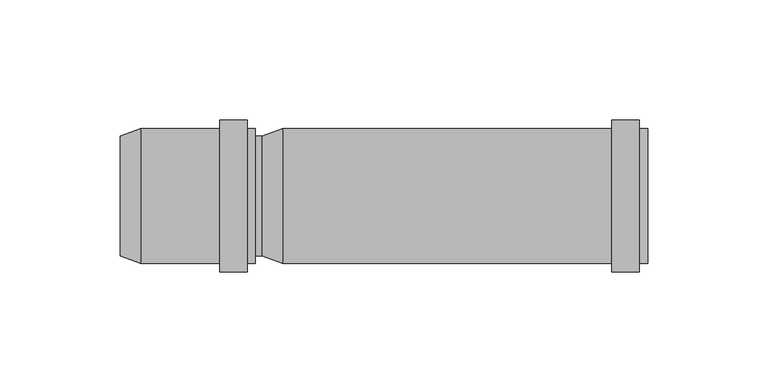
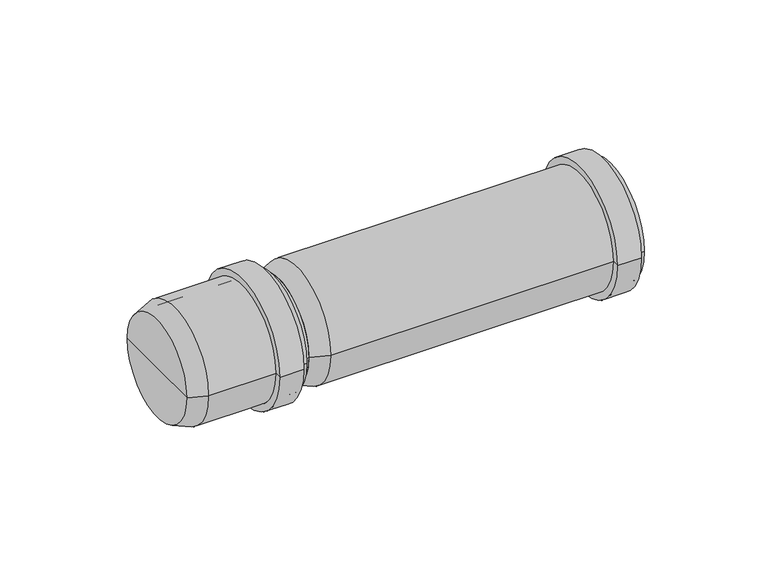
"""IFC4 building model written with IfcOpenShell, lengths in millimetres: pipe fitting geometry, pf_HTL : pf_HTL."""

from ifc_helpers import new_model, si_unit, point, frame, origin, origin_2d, place, context, project, spatial, polyline, circle_curve, trimmed, segment, composite_curve, outline, extrude, source, transform, mapped, element, save
from ifc_brep_helpers import plane_surface, cylinder_surface, revolved_surface, advanced_brep


def pipe_fitting_f14f61f6(model_context):
    return source(origin(), model_context, "Body", "SolidModel", [
        advanced_brep(
        [(0.0, -25.0, 0.0), (0.0, 25.0, 0.0), (8.5, 28.1, 0.0), (8.5, -28.1, 0.0), (0.0, 0.0, 0.0), (160.0, -28.1, 0.0), (160.0, 28.1, 0.0), (160.0, 25.0, 0.0), (160.0, -25.0, 0.0), (156.6, -28.1, 0.0), (156.6, 28.1, 0.0), (156.6, -31.5, 0.0), (156.6, 31.5, 0.0), (145.2, -31.5, 0.0), (145.2, 31.5, 0.0), (145.2, -28.1, 0.0), (145.2, 28.1, 0.0), (8.5, -25.0, 0.0), (8.5, 25.0, 0.0), (8.5, 0.0, 0.0)],
        [
            (0, 1, circle_curve(frame((0.0, 0.0, 0.0), z_axis=(1.0, 0.0, 0.0), x_axis=(0.0, 1.0, 0.0)), 25.0)),
            (1, 2),
            (2, 3, circle_curve(frame((8.5, 0.0, 0.0), z_axis=(-1.0, 0.0, 0.0), x_axis=(0.0, 1.0, 0.0)), 28.1)),
            (3, 0),
            (1, 0, circle_curve(frame((0.0, 0.0, 0.0), z_axis=(1.0, 0.0, 0.0), x_axis=(0.0, 1.0, 0.0)), 25.0)),
            (3, 2, circle_curve(frame((8.5, 0.0, 0.0), z_axis=(-1.0, 0.0, 0.0), x_axis=(0.0, 1.0, 0.0)), 28.1)),
            (4, 1),
            (0, 4),
            (5, 6, circle_curve(frame((160.0, 0.0, 0.0), z_axis=(1.0, 0.0, 0.0), x_axis=(0.0, 1.0, 0.0)), 28.1)),
            (6, 7),
            (7, 8, circle_curve(frame((160.0, 0.0, 0.0), z_axis=(-1.0, 0.0, 0.0), x_axis=(0.0, 1.0, 0.0)), 25.0)),
            (8, 5),
            (6, 5, circle_curve(frame((160.0, 0.0, 0.0), z_axis=(1.0, 0.0, 0.0), x_axis=(0.0, 1.0, 0.0)), 28.1)),
            (8, 7, circle_curve(frame((160.0, 0.0, 0.0), z_axis=(-1.0, 0.0, 0.0), x_axis=(0.0, 1.0, 0.0)), 25.0)),
            (9, 10, circle_curve(frame((156.6, 0.0, 0.0), z_axis=(1.0, 0.0, 0.0), x_axis=(0.0, 1.0, 0.0)), 28.1)),
            (10, 6),
            (5, 9),
            (10, 9, circle_curve(frame((156.6, 0.0, 0.0), z_axis=(1.0, 0.0, 0.0), x_axis=(0.0, 1.0, 0.0)), 28.1)),
            (11, 12, circle_curve(frame((156.6, 0.0, 0.0), z_axis=(1.0, 0.0, 0.0), x_axis=(0.0, 1.0, 0.0)), 31.5)),
            (12, 10),
            (9, 11),
            (12, 11, circle_curve(frame((156.6, 0.0, 0.0), z_axis=(1.0, 0.0, 0.0), x_axis=(0.0, 1.0, 0.0)), 31.5)),
            (13, 14, circle_curve(frame((145.2, 0.0, 0.0), z_axis=(1.0, 0.0, 0.0), x_axis=(0.0, 1.0, 0.0)), 31.5)),
            (14, 12),
            (11, 13),
            (14, 13, circle_curve(frame((145.2, 0.0, 0.0), z_axis=(1.0, 0.0, 0.0), x_axis=(0.0, 1.0, 0.0)), 31.5)),
            (15, 16, circle_curve(frame((145.2, 0.0, 0.0), z_axis=(1.0, 0.0, 0.0), x_axis=(0.0, 1.0, 0.0)), 28.1)),
            (16, 14),
            (13, 15),
            (16, 15, circle_curve(frame((145.2, 0.0, 0.0), z_axis=(1.0, 0.0, 0.0), x_axis=(0.0, 1.0, 0.0)), 28.1)),
            (2, 16),
            (15, 3),
            (17, 18, circle_curve(frame((8.5, 0.0, 0.0), z_axis=(1.0, 0.0, 0.0), x_axis=(0.0, 1.0, 0.0)), 25.0)),
            (18, 19),
            (19, 17),
            (18, 17, circle_curve(frame((8.5, 0.0, 0.0), z_axis=(1.0, 0.0, 0.0), x_axis=(0.0, 1.0, 0.0)), 25.0)),
            (7, 18),
            (17, 8),
        ],
        [
            revolved_surface(polyline([(8.5, 28.1, 0.0), (0.0, 25.0, 0.0)]), (0.0, 0.0, 0.0), (-1.0, 0.0, 0.0)),
            plane_surface(frame((0.0, 0.0, 0.0), z_axis=(-1.0, 0.0, 0.0), x_axis=(0.0, 1.0, 0.0))),
            plane_surface(frame((160.0, 0.0, 0.0), z_axis=(1.0, 0.0, 0.0), x_axis=(0.0, 1.0, 0.0))),
            cylinder_surface(frame((0.0, 0.0, 0.0), z_axis=(-1.0, 0.0, 0.0), x_axis=(0.0, 1.0, 0.0)), 28.1),
            plane_surface(frame((156.6, 0.0, 0.0), z_axis=(1.0, 0.0, 0.0), x_axis=(0.0, 1.0, 0.0))),
            cylinder_surface(frame((0.0, 0.0, 0.0), z_axis=(-1.0, 0.0, 0.0), x_axis=(0.0, 1.0, 0.0)), 31.5),
            plane_surface(frame((145.2, 0.0, 0.0), z_axis=(-1.0, 0.0, 0.0), x_axis=(0.0, 1.0, 0.0))),
            plane_surface(frame((8.5, 0.0, 0.0), z_axis=(1.0, 0.0, 0.0), x_axis=(0.0, 1.0, 0.0))),
            revolved_surface(polyline([(8.5, 25.0, 0.0), (160.0, 25.0, 0.0)]), (0.0, 0.0, 0.0), (-1.0, 0.0, 0.0)),
        ],
        [
            (0, [[1, 2, 3, 4]]),
            (0, [[5, -4, 6, -2]]),
            (1, [[7, -1, 8]]),
            (1, [[-8, -5, -7]]),
            (2, [[9, 10, 11, 12]]),
            (2, [[13, -12, 14, -10]]),
            (3, [[15, 16, -9, 17]]),
            (3, [[18, -17, -13, -16]]),
            (4, [[19, 20, -15, 21]]),
            (4, [[22, -21, -18, -20]]),
            (5, [[23, 24, -19, 25]]),
            (5, [[26, -25, -22, -24]]),
            (6, [[27, 28, -23, 29]]),
            (6, [[30, -29, -26, -28]]),
            (3, [[-3, 31, -27, 32]]),
            (3, [[-6, -32, -30, -31]]),
            (7, [[33, 34, 35]]),
            (7, [[36, -35, -34]]),
            (8, [[-11, 37, -33, 38]]),
            (8, [[-14, -38, -36, -37]]),
        ],
    ),
        advanced_brep(
        [(-59.0, -25.0, 0.0), (-59.0, 25.0, 0.0), (-50.5, 28.1, 0.0), (-50.5, -28.1, 0.0), (-59.0, 0.0, 0.0), (-3.0, -28.1, 0.0), (-3.0, 28.1, 0.0), (-3.0, 25.0, 0.0), (-3.0, -25.0, 0.0), (-6.4, -28.1, 0.0), (-6.4, 28.1, 0.0), (-6.4, -31.5, 0.0), (-6.4, 31.5, 0.0), (-17.8, -31.5, 0.0), (-17.8, 31.5, 0.0), (-17.8, -28.1, 0.0), (-17.8, 28.1, 0.0), (-50.5, -25.0, 0.0), (-50.5, 25.0, 0.0), (-50.5, 0.0, 0.0)],
        [
            (0, 1, circle_curve(frame((-59.0, 0.0, 0.0), z_axis=(1.0, 0.0, 0.0), x_axis=(0.0, 1.0, 0.0)), 25.0)),
            (1, 2),
            (2, 3, circle_curve(frame((-50.5, 0.0, 0.0), z_axis=(-1.0, 0.0, 0.0), x_axis=(0.0, 1.0, 0.0)), 28.1)),
            (3, 0),
            (1, 0, circle_curve(frame((-59.0, 0.0, 0.0), z_axis=(1.0, 0.0, 0.0), x_axis=(0.0, 1.0, 0.0)), 25.0)),
            (3, 2, circle_curve(frame((-50.5, 0.0, 0.0), z_axis=(-1.0, 0.0, 0.0), x_axis=(0.0, 1.0, 0.0)), 28.1)),
            (4, 1),
            (0, 4),
            (5, 6, circle_curve(frame((-3.0, 0.0, 0.0), z_axis=(1.0, 0.0, 0.0), x_axis=(0.0, 1.0, 0.0)), 28.1)),
            (6, 7),
            (7, 8, circle_curve(frame((-3.0, 0.0, 0.0), z_axis=(-1.0, 0.0, 0.0), x_axis=(0.0, 1.0, 0.0)), 25.0)),
            (8, 5),
            (6, 5, circle_curve(frame((-3.0, 0.0, 0.0), z_axis=(1.0, 0.0, 0.0), x_axis=(0.0, 1.0, 0.0)), 28.1)),
            (8, 7, circle_curve(frame((-3.0, 0.0, 0.0), z_axis=(-1.0, 0.0, 0.0), x_axis=(0.0, 1.0, 0.0)), 25.0)),
            (9, 10, circle_curve(frame((-6.4, 0.0, 0.0), z_axis=(1.0, 0.0, 0.0), x_axis=(0.0, 1.0, 0.0)), 28.1)),
            (10, 6),
            (5, 9),
            (10, 9, circle_curve(frame((-6.4, 0.0, 0.0), z_axis=(1.0, 0.0, 0.0), x_axis=(0.0, 1.0, 0.0)), 28.1)),
            (11, 12, circle_curve(frame((-6.4, 0.0, 0.0), z_axis=(1.0, 0.0, 0.0), x_axis=(0.0, 1.0, 0.0)), 31.5)),
            (12, 10),
            (9, 11),
            (12, 11, circle_curve(frame((-6.4, 0.0, 0.0), z_axis=(1.0, 0.0, 0.0), x_axis=(0.0, 1.0, 0.0)), 31.5)),
            (13, 14, circle_curve(frame((-17.8, 0.0, 0.0), z_axis=(1.0, 0.0, 0.0), x_axis=(0.0, 1.0, 0.0)), 31.5)),
            (14, 12),
            (11, 13),
            (14, 13, circle_curve(frame((-17.8, 0.0, 0.0), z_axis=(1.0, 0.0, 0.0), x_axis=(0.0, 1.0, 0.0)), 31.5)),
            (15, 16, circle_curve(frame((-17.8, 0.0, 0.0), z_axis=(1.0, 0.0, 0.0), x_axis=(0.0, 1.0, 0.0)), 28.1)),
            (16, 14),
            (13, 15),
            (16, 15, circle_curve(frame((-17.8, 0.0, 0.0), z_axis=(1.0, 0.0, 0.0), x_axis=(0.0, 1.0, 0.0)), 28.1)),
            (2, 16),
            (15, 3),
            (17, 18, circle_curve(frame((-50.5, 0.0, 0.0), z_axis=(1.0, 0.0, 0.0), x_axis=(0.0, 1.0, 0.0)), 25.0)),
            (18, 19),
            (19, 17),
            (18, 17, circle_curve(frame((-50.5, 0.0, 0.0), z_axis=(1.0, 0.0, 0.0), x_axis=(0.0, 1.0, 0.0)), 25.0)),
            (7, 18),
            (17, 8),
        ],
        [
            revolved_surface(polyline([(-50.5, 28.1, 0.0), (-59.0, 25.0, 0.0)]), (-59.0, 0.0, 0.0), (-1.0, 0.0, 0.0)),
            plane_surface(frame((-59.0, 0.0, 0.0), z_axis=(-1.0, 0.0, 0.0), x_axis=(0.0, 1.0, 0.0))),
            plane_surface(frame((-3.0, 0.0, 0.0), z_axis=(1.0, 0.0, 0.0), x_axis=(0.0, 1.0, 0.0))),
            cylinder_surface(frame((-59.0, 0.0, 0.0), z_axis=(-1.0, 0.0, 0.0), x_axis=(0.0, 1.0, 0.0)), 28.1),
            plane_surface(frame((-6.4, 0.0, 0.0), z_axis=(1.0, 0.0, 0.0), x_axis=(0.0, 1.0, 0.0))),
            cylinder_surface(frame((-59.0, 0.0, 0.0), z_axis=(-1.0, 0.0, 0.0), x_axis=(0.0, 1.0, 0.0)), 31.5),
            plane_surface(frame((-17.8, 0.0, 0.0), z_axis=(-1.0, 0.0, 0.0), x_axis=(0.0, 1.0, 0.0))),
            plane_surface(frame((-50.5, 0.0, 0.0), z_axis=(1.0, 0.0, 0.0), x_axis=(0.0, 1.0, 0.0))),
            revolved_surface(polyline([(-50.5, 25.0, 0.0), (-3.0, 25.0, 0.0)]), (-59.0, 0.0, 0.0), (-1.0, 0.0, 0.0)),
        ],
        [
            (0, [[1, 2, 3, 4]]),
            (0, [[5, -4, 6, -2]]),
            (1, [[7, -1, 8]]),
            (1, [[-8, -5, -7]]),
            (2, [[9, 10, 11, 12]]),
            (2, [[13, -12, 14, -10]]),
            (3, [[15, 16, -9, 17]]),
            (3, [[18, -17, -13, -16]]),
            (4, [[19, 20, -15, 21]]),
            (4, [[22, -21, -18, -20]]),
            (5, [[23, 24, -19, 25]]),
            (5, [[26, -25, -22, -24]]),
            (6, [[27, 28, -23, 29]]),
            (6, [[30, -29, -26, -28]]),
            (3, [[-3, 31, -27, 32]]),
            (3, [[-6, -32, -30, -31]]),
            (7, [[33, 34, 35]]),
            (7, [[36, -35, -34]]),
            (8, [[-11, 37, -33, 38]]),
            (8, [[-14, -38, -36, -37]]),
        ],
    ),
        extrude(outline(composite_curve([segment(trimmed(circle_curve(origin_2d(), 25.0), [point((-25.0, 0.0))], [point((25.0, 0.0))], False, "CARTESIAN"), True, "CONTINUOUS"), segment(trimmed(circle_curve(origin_2d(), 25.0), [point((25.0, 0.0))], [point((-25.0, 0.0))], False, "CARTESIAN"), True, "CONTINUOUS")], self_intersect=False)), frame((-3.0, 0.0, 0.0), z_axis=(1.0, 0.0, 0.0), x_axis=(0.0, 1.0, 0.0)), (0.0, 0.0, 1.0), 3.0),
    ])


if __name__ == "__main__":
    model = new_model("IFC4")
    model_context = context("Model", 3, world=origin())
    ifc_project = project(units=[si_unit("LENGTHUNIT", "METRE", prefix="MILLI")], contexts=[model_context])
    site = spatial("IfcSite", under=ifc_project)
    building = spatial("IfcBuilding", under=site)
    placement = place(None, origin())
    pipe_fitting_shape = pipe_fitting_f14f61f6(model_context)
    element("IfcPipeFitting", 1, ObjectType="pf_HTL : pf_HTL", at=placement, inside=building, context=model_context, shape_type="MappedRepresentation", body=[
        mapped(pipe_fitting_shape, transform((0.0, 0.0, 0.0), x_axis=(1.0, 0.0, 0.0), y_axis=(0.0, 1.0, 0.0), z_axis=(0.0, 0.0, 1.0))),
    ])
    save(model, "model.ifc")
